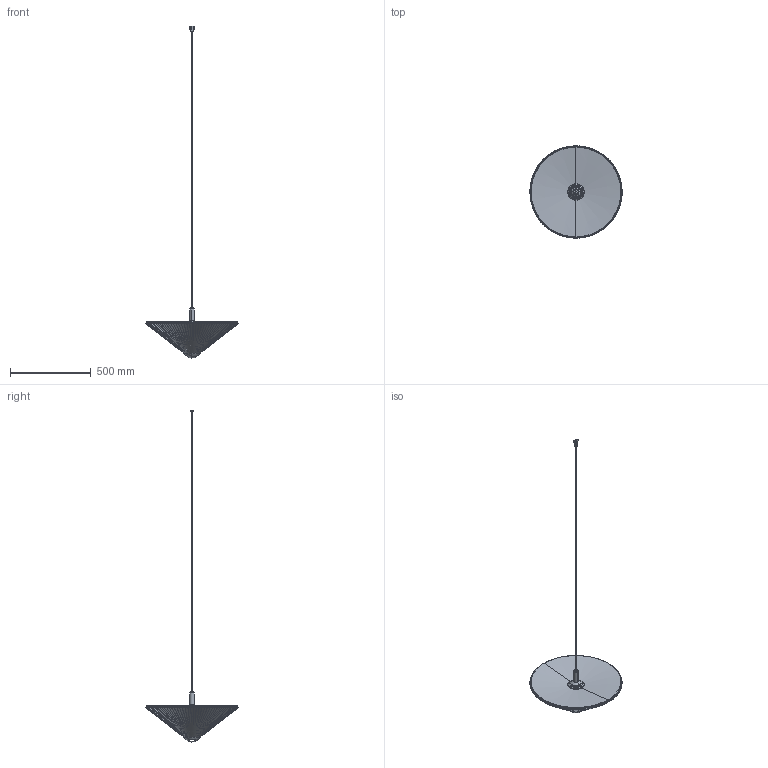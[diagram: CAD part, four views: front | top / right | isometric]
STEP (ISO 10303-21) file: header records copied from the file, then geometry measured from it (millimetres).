
FILE_DESCRIPTION(/* description */ (''),/* implementation_level */ '2;1');
FILE_NAME(/* name */ 'C:\Users\FrancoSartori\Documents\FARO\01_En Proceso\00_SAIGON\03_Publicación\71584-01.stp',/* time_stamp */ '2021-05-03T13:19:04+02:00',/* author */ ('FrancoSartori'),/* organization */ (''),/* preprocessor_version */ 'ST-DEVELOPER v18.1',/* originating_system */ 'AutoCAD Mechanical',/* authorisation */ '');
FILE_SCHEMA (('AUTOMOTIVE_DESIGN { 1 0 10303 214 3 1 1 }'));
Length unit declared in the file: millimetre
Products named in the file (4): Product; 71584 - Portable-492588-Export; 71583HC - HoleCap-480873-Export; 71585 - 71587 R17-477498-Export
Assembly tree (3 placements, depth 2):
  Product
    71584 - Portable-492588-Export
    71583HC - HoleCap-480873-Export
    71585 - 71587 R17-477498-Export
Bounding box: 572.2 x 572.22 x 2059.95 mm (x, y, z)
Volume: 4436265.5 mm3; surface area: 1883702.7 mm2
Topology: 110 solids, 110 shells, 1095 faces, 2472 edges, 1490 vertices
Faces by surface type: plane 474, bspline 208, cone 179, torus 124, cylinder 108, sphere 2
Entity records: 35025 total; most frequent: CARTESIAN_POINT 13210, ORIENTED_EDGE 4740, DIRECTION 3639, EDGE_CURVE 2370, VERTEX_POINT 1490, AXIS2_PLACEMENT_3D 1223, LINE 1193, VECTOR 1193
